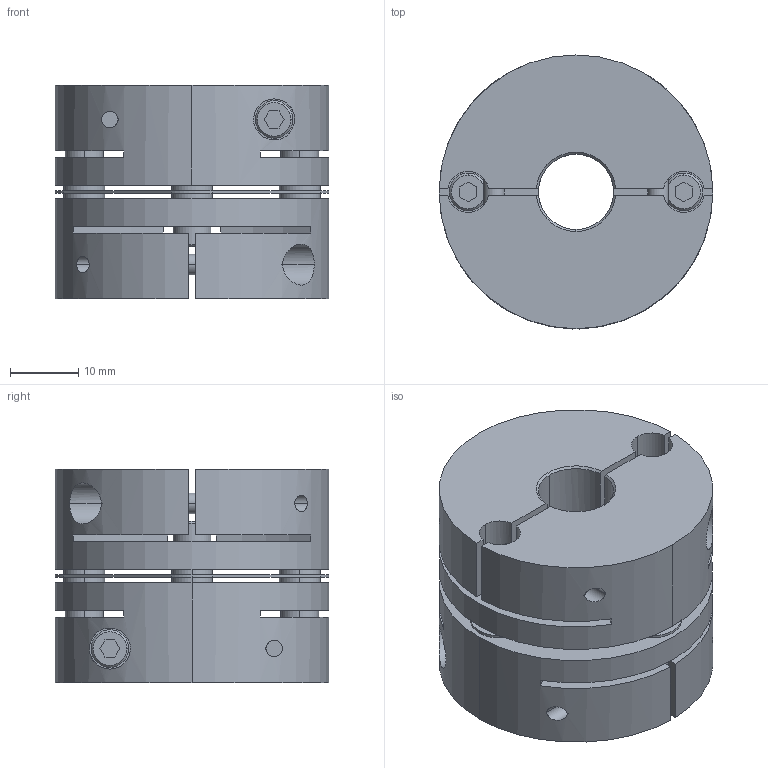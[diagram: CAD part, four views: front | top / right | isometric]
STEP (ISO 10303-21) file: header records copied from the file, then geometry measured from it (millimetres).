
FILE_DESCRIPTION((''),'2;1');
FILE_NAME('LAS-40C-11×12.stp','2011-08-11T08:49:18',(''),(''),'AutoCAD STEP 2000i','AutoCAD 2000i',', , ');
FILE_SCHEMA(('CONFIG_CONTROL_DESIGN'));
Length unit declared in the file: millimetre
Products named in the file (5): LAS-40C-10×10; 忣兜1; LA-4002-D10-1; LA-4002-D10; LAS40-ITA
Assembly tree (4 placements, depth 2):
  LAS-40C-10×10
    忣兜1
    LA-4002-D10-1
    LA-4002-D10
    LAS40-ITA
Bounding box: 40 x 40 x 31.2 mm (x, y, z)
Volume: 30939.2 mm3; surface area: 15479.6 mm2
Topology: 1 solids, 1 shells, 236 faces, 624 edges, 408 vertices
Faces by surface type: plane 112, cylinder 96, cone 28
Entity records: 8107 total; most frequent: CARTESIAN_POINT 1913, DIRECTION 1302, ORIENTED_EDGE 1248, EDGE_CURVE 624, AXIS2_PLACEMENT_3D 477, VERTEX_POINT 408, VECTOR 348, LINE 348
